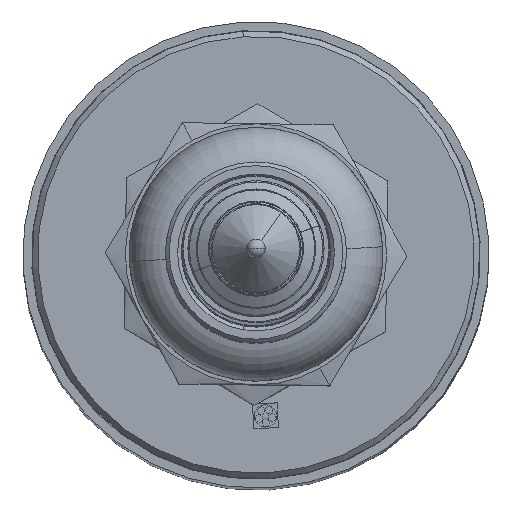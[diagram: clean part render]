
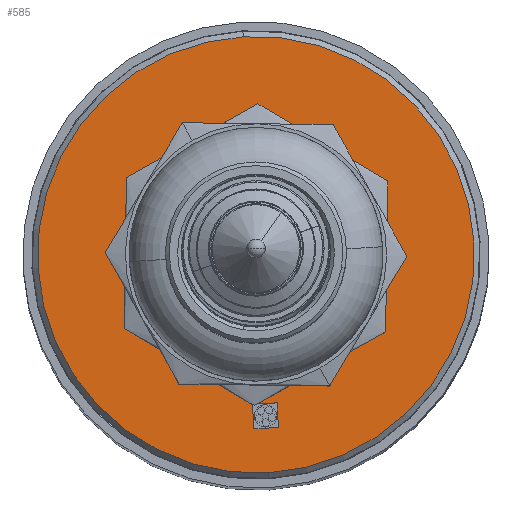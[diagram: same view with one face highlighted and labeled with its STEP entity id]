
A CAD part, top view. The second image highlights one B-rep face of the part: STEP entity #585.
In plain terms, the highlighted planar face has unit normal (0, 0, 1).
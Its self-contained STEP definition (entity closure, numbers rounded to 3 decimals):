
#585=ADVANCED_FACE('',(#1574,#1575),#1576,.T.);
#1574=FACE_OUTER_BOUND('',#2820,.T.);
#1575=FACE_BOUND('',#2821,.T.);
#1576=PLANE('',#2822);
#2820=EDGE_LOOP('',(#6088,#6089));
#2821=EDGE_LOOP('',(#6090,#6091,#6092,#6093,#6094,#6095,#6096,#6097,#6098,#6099));
#2822=AXIS2_PLACEMENT_3D('',#6100,#6101,#6102);
#6088=ORIENTED_EDGE('',*,*,#8871,.F.);
#6089=ORIENTED_EDGE('',*,*,#8472,.F.);
#6090=ORIENTED_EDGE('',*,*,#8872,.T.);
#6091=ORIENTED_EDGE('',*,*,#8873,.T.);
#6092=ORIENTED_EDGE('',*,*,#8874,.T.);
#6093=ORIENTED_EDGE('',*,*,#8875,.T.);
#6094=ORIENTED_EDGE('',*,*,#8876,.T.);
#6095=ORIENTED_EDGE('',*,*,#8877,.T.);
#6096=ORIENTED_EDGE('',*,*,#8878,.T.);
#6097=ORIENTED_EDGE('',*,*,#8879,.T.);
#6098=ORIENTED_EDGE('',*,*,#8880,.T.);
#6099=ORIENTED_EDGE('',*,*,#8881,.T.);
#6100=CARTESIAN_POINT('',(-0.51,8.699,-97.5));
#6101=DIRECTION('',(0.0,0.0,1.0));
#6102=DIRECTION('',(0.998,0.059,0.0));
#8472=EDGE_CURVE('',#10265,#10267,#10268,.T.);
#8871=EDGE_CURVE('',#10267,#10265,#10924,.T.);
#8872=EDGE_CURVE('',#10925,#10926,#10927,.T.);
#8873=EDGE_CURVE('',#10926,#10928,#10929,.T.);
#8874=EDGE_CURVE('',#10928,#10930,#10931,.T.);
#8875=EDGE_CURVE('',#10930,#10932,#10933,.T.);
#8876=EDGE_CURVE('',#10932,#10934,#10935,.T.);
#8877=EDGE_CURVE('',#10934,#10936,#10937,.T.);
#8878=EDGE_CURVE('',#10936,#10938,#10939,.T.);
#8879=EDGE_CURVE('',#10938,#10940,#10941,.T.);
#8880=EDGE_CURVE('',#10940,#10942,#10943,.T.);
#8881=EDGE_CURVE('',#10942,#10925,#10944,.T.);
#10265=VERTEX_POINT('',#12817);
#10267=VERTEX_POINT('',#12820);
#10268=CIRCLE('',#12821,11.7);
#10924=CIRCLE('',#14027,11.7);
#10925=VERTEX_POINT('',#14028);
#10926=VERTEX_POINT('',#14029);
#10927=LINE('',#14030,#14031);
#10928=VERTEX_POINT('',#14032);
#10929=LINE('',#14033,#14034);
#10930=VERTEX_POINT('',#14035);
#10931=LINE('',#14036,#14037);
#10932=VERTEX_POINT('',#14038);
#10933=LINE('',#14039,#14040);
#10934=VERTEX_POINT('',#14041);
#10935=LINE('',#14042,#14043);
#10936=VERTEX_POINT('',#14044);
#10937=LINE('',#14045,#14046);
#10938=VERTEX_POINT('',#14047);
#10939=LINE('',#14048,#14049);
#10940=VERTEX_POINT('',#14050);
#10941=LINE('',#14051,#14052);
#10942=VERTEX_POINT('',#14053);
#10943=LINE('',#14054,#14055);
#10944=LINE('',#14056,#14057);
#12817=CARTESIAN_POINT('',(-0.685,11.68,-97.5));
#12820=CARTESIAN_POINT('',(0.685,-11.68,-97.5));
#12821=AXIS2_PLACEMENT_3D('',#16634,#16635,#16636);
#14027=AXIS2_PLACEMENT_3D('',#17341,#17342,#17343);
#14028=CARTESIAN_POINT('',(-0.19,-8.032,-97.5));
#14029=CARTESIAN_POINT('',(-7.052,-3.95,-97.5));
#14030=CARTESIAN_POINT('',(-0.19,-8.032,-97.5));
#14031=VECTOR('',#17344,7.984);
#14032=CARTESIAN_POINT('',(-6.947,4.132,-97.5));
#14033=CARTESIAN_POINT('',(-7.052,-3.95,-97.5));
#14034=VECTOR('',#17345,8.083);
#14035=CARTESIAN_POINT('',(0.105,8.082,-97.5));
#14036=CARTESIAN_POINT('',(-6.947,4.132,-97.5));
#14037=VECTOR('',#17346,8.083);
#14038=CARTESIAN_POINT('',(7.052,3.95,-97.5));
#14039=CARTESIAN_POINT('',(0.105,8.082,-97.5));
#14040=VECTOR('',#17347,8.083);
#14041=CARTESIAN_POINT('',(6.947,-4.132,-97.5));
#14042=CARTESIAN_POINT('',(7.052,3.95,-97.5));
#14043=VECTOR('',#17348,8.083);
#14044=CARTESIAN_POINT('',(0.05,-7.996,-97.5));
#14045=CARTESIAN_POINT('',(6.947,-4.132,-97.5));
#14046=VECTOR('',#17349,7.906);
#14047=CARTESIAN_POINT('',(1.127,-7.933,-97.5));
#14048=CARTESIAN_POINT('',(0.05,-7.996,-97.5));
#14049=VECTOR('',#17350,1.079);
#14050=CARTESIAN_POINT('',(1.204,-9.25,-97.5));
#14051=CARTESIAN_POINT('',(1.127,-7.933,-97.5));
#14052=VECTOR('',#17351,1.32);
#14053=CARTESIAN_POINT('',(-0.114,-9.328,-97.5));
#14054=CARTESIAN_POINT('',(1.204,-9.25,-97.5));
#14055=VECTOR('',#17352,1.32);
#14056=CARTESIAN_POINT('',(-0.114,-9.328,-97.5));
#14057=VECTOR('',#17353,1.298);
#16634=CARTESIAN_POINT('',(0.,0.,-97.5));
#16635=DIRECTION('',(0.0,0.0,-1.0));
#16636=DIRECTION('',(-0.059,0.998,0.0));
#17341=CARTESIAN_POINT('',(0.,0.,-97.5));
#17342=DIRECTION('',(0.0,0.0,-1.0));
#17343=DIRECTION('',(-0.059,0.998,0.0));
#17344=DIRECTION('',(-0.859,0.511,0.0));
#17345=DIRECTION('',(0.013,1.,0.0));
#17346=DIRECTION('',(0.872,0.489,0.0));
#17347=DIRECTION('',(0.859,-0.511,0.0));
#17348=DIRECTION('',(-0.013,-1.,0.0));
#17349=DIRECTION('',(-0.872,-0.489,0.0));
#17350=DIRECTION('',(0.998,0.059,0.0));
#17351=DIRECTION('',(0.059,-0.998,0.0));
#17352=DIRECTION('',(-0.998,-0.059,0.0));
#17353=DIRECTION('',(-0.059,0.998,0.0));
